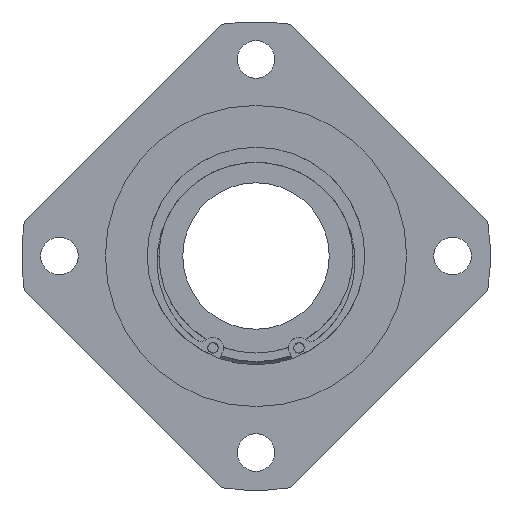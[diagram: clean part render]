
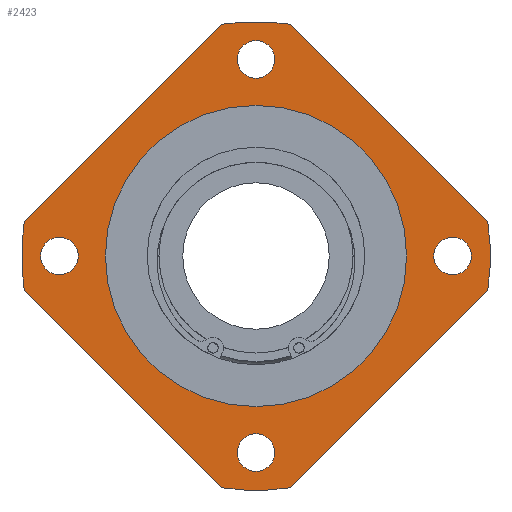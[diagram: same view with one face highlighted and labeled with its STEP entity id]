
A CAD part, left-side view. The second image highlights one B-rep face of the part: STEP entity #2423.
In plain terms, the highlighted planar face has unit normal (-1, 0, 0).
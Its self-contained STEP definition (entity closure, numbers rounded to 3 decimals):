
#2006=CARTESIAN_POINT('',(13.0,47.0,-4.5));
#2007=VERTEX_POINT('',#2006);
#2008=CARTESIAN_POINT('',(13.,47.0,0.));
#2009=DIRECTION('',(1.0,0.0,0.0));
#2010=DIRECTION('',(0.0,0.0,-1.0));
#2011=AXIS2_PLACEMENT_3D('',#2008,#2009,#2010);
#2012=CIRCLE('',#2011,4.5);
#2013=EDGE_CURVE('',#2007,#2007,#2012,.T.);
#2034=CARTESIAN_POINT('',(13.0,-4.5,-47.0));
#2035=VERTEX_POINT('',#2034);
#2036=CARTESIAN_POINT('',(13.,0.,-47.0));
#2037=DIRECTION('',(1.0,0.0,0.0));
#2038=DIRECTION('',(0.0,-1.0,0.0));
#2039=AXIS2_PLACEMENT_3D('',#2036,#2037,#2038);
#2040=CIRCLE('',#2039,4.5);
#2041=EDGE_CURVE('',#2035,#2035,#2040,.T.);
#2062=CARTESIAN_POINT('',(13.0,-47.0,4.5));
#2063=VERTEX_POINT('',#2062);
#2064=CARTESIAN_POINT('',(13.,-47.0,0.));
#2065=DIRECTION('',(1.0,0.0,0.0));
#2066=DIRECTION('',(0.0,0.0,1.0));
#2067=AXIS2_PLACEMENT_3D('',#2064,#2065,#2066);
#2068=CIRCLE('',#2067,4.5);
#2069=EDGE_CURVE('',#2063,#2063,#2068,.T.);
#2090=CARTESIAN_POINT('',(13.0,4.5,47.0));
#2091=VERTEX_POINT('',#2090);
#2092=CARTESIAN_POINT('',(13.,0.,47.0));
#2093=DIRECTION('',(1.0,0.0,0.0));
#2094=DIRECTION('',(0.0,1.0,0.0));
#2095=AXIS2_PLACEMENT_3D('',#2092,#2093,#2094);
#2096=CIRCLE('',#2095,4.5);
#2097=EDGE_CURVE('',#2091,#2091,#2096,.T.);
#2117=CARTESIAN_POINT('',(13.0,-8.251,55.389));
#2118=VERTEX_POINT('',#2117);
#2125=CARTESIAN_POINT('',(13.0,-55.389,8.251));
#2126=VERTEX_POINT('',#2125);
#2127=CARTESIAN_POINT('',(13.0,-55.389,8.251));
#2128=DIRECTION('',(0.0,0.707,0.707));
#2129=VECTOR('',#2128,66.663);
#2130=LINE('',#2127,#2129);
#2131=EDGE_CURVE('',#2126,#2118,#2130,.T.);
#2157=CARTESIAN_POINT('',(13.0,8.251,-55.389));
#2158=VERTEX_POINT('',#2157);
#2165=CARTESIAN_POINT('',(13.0,55.389,-8.251));
#2166=VERTEX_POINT('',#2165);
#2167=CARTESIAN_POINT('',(13.0,55.389,-8.251));
#2168=DIRECTION('',(0.0,-0.707,-0.707));
#2169=VECTOR('',#2168,66.663);
#2170=LINE('',#2167,#2169);
#2171=EDGE_CURVE('',#2166,#2158,#2170,.T.);
#2197=CARTESIAN_POINT('',(13.0,-55.389,-8.251));
#2198=VERTEX_POINT('',#2197);
#2205=CARTESIAN_POINT('',(13.0,-8.251,-55.389));
#2206=VERTEX_POINT('',#2205);
#2207=CARTESIAN_POINT('',(13.0,-8.251,-55.389));
#2208=DIRECTION('',(0.0,-0.707,0.707));
#2209=VECTOR('',#2208,66.663);
#2210=LINE('',#2207,#2209);
#2211=EDGE_CURVE('',#2206,#2198,#2210,.T.);
#2237=CARTESIAN_POINT('',(13.0,55.389,8.251));
#2238=VERTEX_POINT('',#2237);
#2245=CARTESIAN_POINT('',(13.0,8.251,55.389));
#2246=VERTEX_POINT('',#2245);
#2247=CARTESIAN_POINT('',(13.0,8.251,55.389));
#2248=DIRECTION('',(0.0,0.707,-0.707));
#2249=VECTOR('',#2248,66.663);
#2250=LINE('',#2247,#2249);
#2251=EDGE_CURVE('',#2246,#2238,#2250,.T.);
#2331=CARTESIAN_POINT('',(13.,0.0,0.0));
#2332=DIRECTION('',(-1.0,0.0,0.0));
#2333=DIRECTION('',(0.0,0.0,1.0));
#2334=AXIS2_PLACEMENT_3D('',#2331,#2332,#2333);
#2335=CIRCLE('',#2334,56.);
#2336=EDGE_CURVE('',#2238,#2166,#2335,.T.);
#2351=CARTESIAN_POINT('',(13.,0.0,0.0));
#2352=DIRECTION('',(-1.0,0.0,0.0));
#2353=DIRECTION('',(0.0,0.0,1.0));
#2354=AXIS2_PLACEMENT_3D('',#2351,#2352,#2353);
#2355=CIRCLE('',#2354,56.);
#2356=EDGE_CURVE('',#2158,#2206,#2355,.T.);
#2367=CARTESIAN_POINT('',(13.,0.0,0.0));
#2368=DIRECTION('',(-1.0,0.0,0.0));
#2369=DIRECTION('',(0.0,0.0,1.0));
#2370=AXIS2_PLACEMENT_3D('',#2367,#2368,#2369);
#2371=CIRCLE('',#2370,56.);
#2372=EDGE_CURVE('',#2198,#2126,#2371,.T.);
#2379=CARTESIAN_POINT('',(13.,0.0,46.));
#2380=DIRECTION('',(-1.0,0.0,0.0));
#2381=DIRECTION('',(0.0,0.0,1.0));
#2382=AXIS2_PLACEMENT_3D('',#2379,#2380,#2381);
#2383=PLANE('',#2382);
#2384=ORIENTED_EDGE('',*,*,#2131,.T.);
#2385=CARTESIAN_POINT('',(13.,0.0,0.0));
#2386=DIRECTION('',(-1.0,0.0,0.0));
#2387=DIRECTION('',(0.0,0.0,1.0));
#2388=AXIS2_PLACEMENT_3D('',#2385,#2386,#2387);
#2389=CIRCLE('',#2388,56.);
#2390=EDGE_CURVE('',#2118,#2246,#2389,.T.);
#2391=ORIENTED_EDGE('',*,*,#2390,.T.);
#2392=ORIENTED_EDGE('',*,*,#2251,.T.);
#2393=ORIENTED_EDGE('',*,*,#2336,.T.);
#2394=ORIENTED_EDGE('',*,*,#2171,.T.);
#2395=ORIENTED_EDGE('',*,*,#2356,.T.);
#2396=ORIENTED_EDGE('',*,*,#2211,.T.);
#2397=ORIENTED_EDGE('',*,*,#2372,.T.);
#2398=EDGE_LOOP('',(#2384,#2391,#2392,#2393,#2394,#2395,#2396,#2397));
#2399=FACE_OUTER_BOUND('',#2398,.T.);
#2400=ORIENTED_EDGE('',*,*,#2013,.T.);
#2401=EDGE_LOOP('',(#2400));
#2402=FACE_BOUND('',#2401,.T.);
#2403=ORIENTED_EDGE('',*,*,#2041,.T.);
#2404=EDGE_LOOP('',(#2403));
#2405=FACE_BOUND('',#2404,.T.);
#2406=ORIENTED_EDGE('',*,*,#2069,.T.);
#2407=EDGE_LOOP('',(#2406));
#2408=FACE_BOUND('',#2407,.T.);
#2409=ORIENTED_EDGE('',*,*,#2097,.T.);
#2410=EDGE_LOOP('',(#2409));
#2411=FACE_BOUND('',#2410,.T.);
#2412=CARTESIAN_POINT('',(13.,0.0,36.));
#2413=VERTEX_POINT('',#2412);
#2414=CARTESIAN_POINT('',(13.,0.0,0.0));
#2415=DIRECTION('',(-1.0,0.0,0.0));
#2416=DIRECTION('',(0.0,0.0,1.0));
#2417=AXIS2_PLACEMENT_3D('',#2414,#2415,#2416);
#2418=CIRCLE('',#2417,36.);
#2419=EDGE_CURVE('',#2413,#2413,#2418,.T.);
#2420=ORIENTED_EDGE('',*,*,#2419,.F.);
#2421=EDGE_LOOP('',(#2420));
#2422=FACE_BOUND('',#2421,.T.);
#2423=ADVANCED_FACE('',(#2399,#2402,#2405,#2408,#2411,#2422),#2383,.T.);
